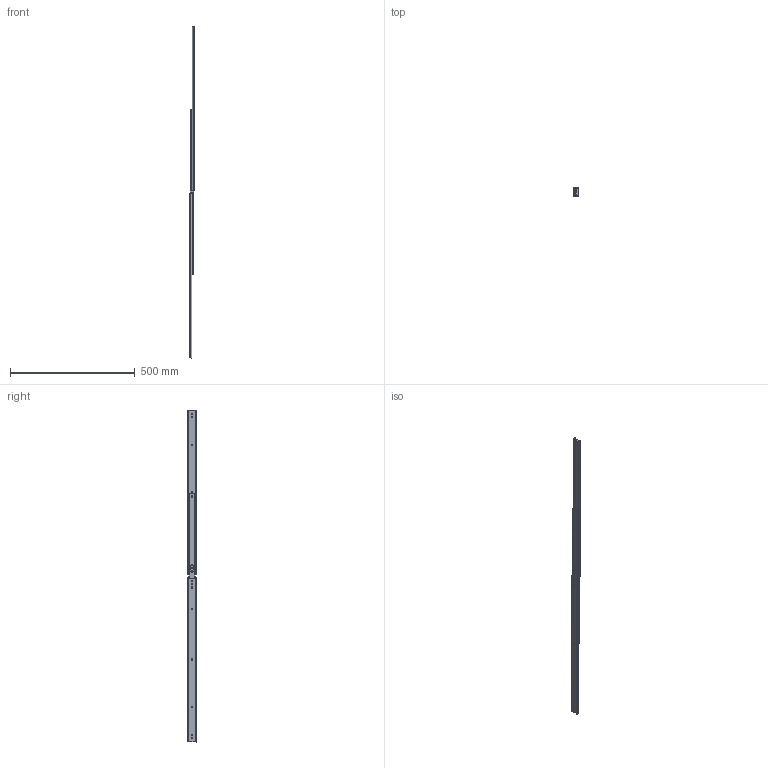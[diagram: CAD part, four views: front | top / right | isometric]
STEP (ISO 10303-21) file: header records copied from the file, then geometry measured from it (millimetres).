
FILE_DESCRIPTION (( 'STEP AP214' ), '1' );
FILE_NAME ('3560-650-open.STEP', '2024-08-20T05:29:02', ( '' ), ( '' ), 'SwSTEP 2.0', 'SolidWorks 2024', '' );
FILE_SCHEMA (( 'AUTOMOTIVE_DESIGN' ));
Length unit declared in the file: millimetre
Products named in the file (4): 3560-650-open; CAD_3560-650_TelescopicRailLight_Rollco.stp_Assem15; 26065P1-26''''.stp_Part29; 26065P3-26''''.stp_Part30
Assembly tree (5 placements, depth 3):
  3560-650-open
    CAD_3560-650_TelescopicRailLight_Rollco.stp_Assem15
      26065P1-26''''.stp_Part29  x2
      26065P3-26''''.stp_Part30  x2
Bounding box: 19.6 x 35.26 x 1330.8 mm (x, y, z)
Surface area: 217744.8 mm2 (no closed solid volume)
Topology: 0 solids, 4 shells, 306 faces, 882 edges, 584 vertices
Faces by surface type: cylinder 162, plane 144
Entity records: 6501 total; most frequent: CARTESIAN_POINT 3189, ORIENTED_EDGE 882, EDGE_CURVE 441, B_SPLINE_CURVE_WITH_KNOTS 428, DIRECTION 337, VERTEX_POINT 292, EDGE_LOOP 177, AXIS2_PLACEMENT_3D 162
